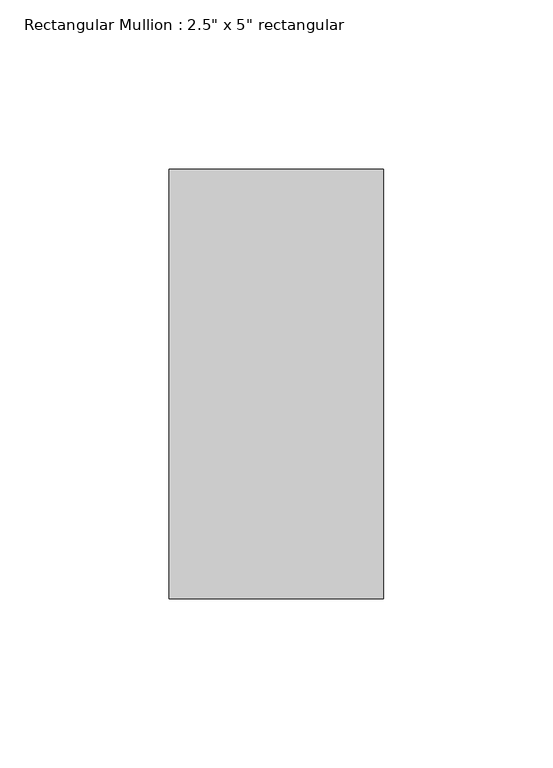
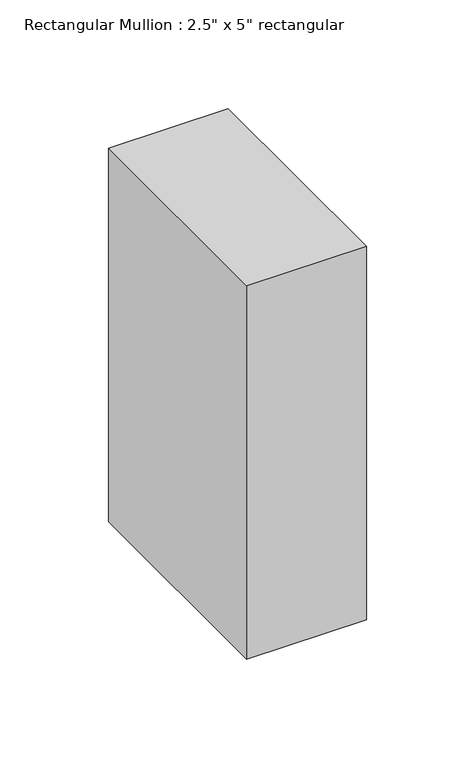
"""IFC4 building model written with IfcOpenShell, lengths in millimetres: member geometry."""

from ifc_helpers import new_model, si_unit, frame, origin, place, context, project, spatial, polyline, outline, extrude, source, transform, mapped, element, save


def member_420b45ef(model_context):
    return source(origin(), model_context, "Body", "SweptSolid", [
        extrude(outline(polyline([(0.0, 63.5), (0.0, -63.5), (-63.5, -63.5), (-63.5, 63.5), (0.0, 63.5)])), frame((0.0, 0.0, -209.55), z_axis=(0.0, 0.0, 1.0), x_axis=(1.0, 0.0, 0.0)), (0.0, 0.0, 1.0), 209.55),
    ])


if __name__ == "__main__":
    model = new_model("IFC4")
    model_context = context("Model", 3, world=origin())
    ifc_project = project(units=[si_unit("LENGTHUNIT", "METRE", prefix="MILLI")], contexts=[model_context])
    site = spatial("IfcSite", under=ifc_project)
    building = spatial("IfcBuilding", under=site)
    placement = place(None, origin())
    member_shape = member_420b45ef(model_context)
    element("IfcMember", 1, ObjectType="Rectangular Mullion : 2.5\" x 5\" rectangular", at=placement, inside=building, context=model_context, shape_type="MappedRepresentation", body=[
        mapped(member_shape, transform((0.0, 0.0, 0.0), x_axis=(1.0, 0.0, 0.0), y_axis=(0.0, 1.0, 0.0), z_axis=(0.0, 0.0, 1.0))),
    ])
    save(model, "model.ifc")
